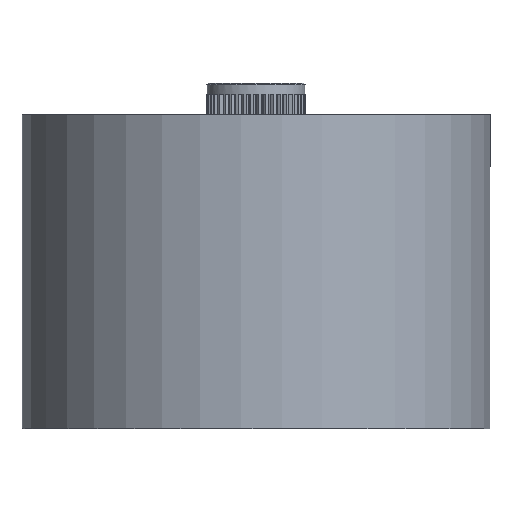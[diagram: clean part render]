
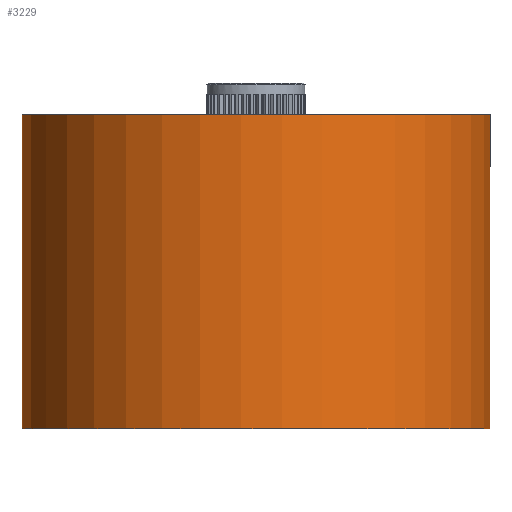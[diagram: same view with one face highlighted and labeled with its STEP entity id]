
A CAD part, front view. The second image highlights one B-rep face of the part: STEP entity #3229.
In plain terms, the highlighted cylindrical face has radius 19 mm (diameter 38 mm), a full revolution.
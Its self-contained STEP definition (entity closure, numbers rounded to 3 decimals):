
#2368=CARTESIAN_POINT('',(10.549,15.802,18.856));
#2369=VERTEX_POINT('',#2368);
#2370=CARTESIAN_POINT('',(0.,0.,18.856));
#2371=DIRECTION('',(0.0,0.0,-1.0));
#2372=DIRECTION('',(-0.555,-0.832,0.0));
#2373=AXIS2_PLACEMENT_3D('',#2370,#2371,#2372);
#2374=CIRCLE('',#2373,19.);
#2375=EDGE_CURVE('',#2369,#2369,#2374,.F.);
#3210=CARTESIAN_POINT('',(0.,0.,-6.604));
#3211=DIRECTION('',(0.0,0.0,1.0));
#3212=DIRECTION('',(-0.555,-0.832,0.0));
#3213=AXIS2_PLACEMENT_3D('',#3210,#3211,#3212);
#3214=CYLINDRICAL_SURFACE('',#3213,19.0);
#3215=ORIENTED_EDGE('',*,*,#2375,.F.);
#3216=EDGE_LOOP('',(#3215));
#3217=FACE_OUTER_BOUND('',#3216,.T.);
#3218=CARTESIAN_POINT('',(10.549,15.802,-6.604));
#3219=VERTEX_POINT('',#3218);
#3220=CARTESIAN_POINT('',(0.,0.,-6.604));
#3221=DIRECTION('',(0.0,0.0,1.0));
#3222=DIRECTION('',(-0.555,-0.832,0.0));
#3223=AXIS2_PLACEMENT_3D('',#3220,#3221,#3222);
#3224=CIRCLE('',#3223,19.);
#3225=EDGE_CURVE('',#3219,#3219,#3224,.F.);
#3226=ORIENTED_EDGE('',*,*,#3225,.F.);
#3227=EDGE_LOOP('',(#3226));
#3228=FACE_BOUND('',#3227,.T.);
#3229=ADVANCED_FACE('',(#3217,#3228),#3214,.T.);
